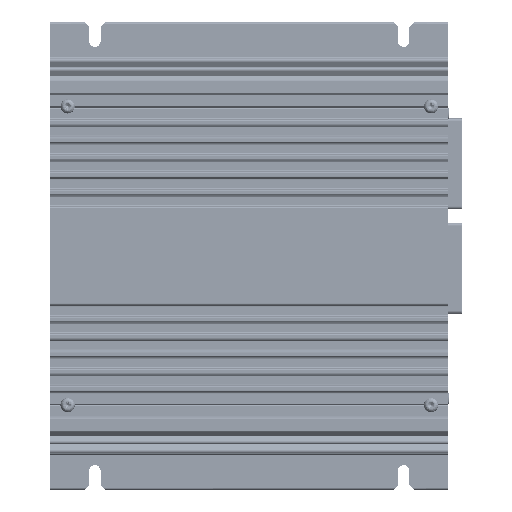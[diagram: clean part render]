
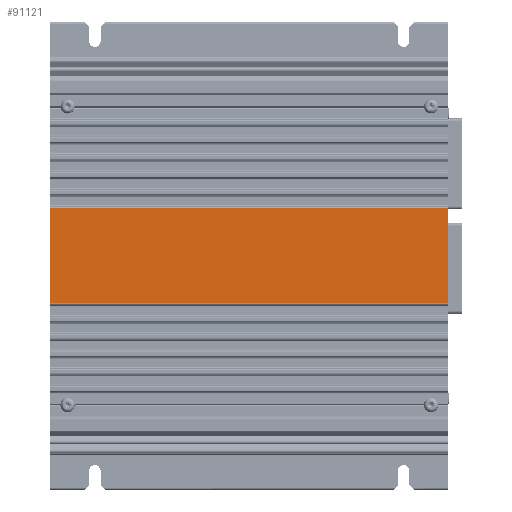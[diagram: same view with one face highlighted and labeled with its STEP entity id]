
A CAD part, top view. The second image highlights one B-rep face of the part: STEP entity #91121.
In plain terms, the highlighted planar face has unit normal (0, 0, 1).
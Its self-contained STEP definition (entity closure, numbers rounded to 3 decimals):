
#62483=FACE_OUTER_BOUND('',#281086,.T.);
#91121=ADVANCED_FACE('',(#62483),#113110,.F.);
#113110=PLANE('',#619188);
#178683=LINE('',#977205,#244637);
#178872=LINE('',#977763,#244826);
#178873=LINE('',#977765,#244827);
#178874=LINE('',#977767,#244828);
#244637=VECTOR('',#763787,1.);
#244826=VECTOR('',#764332,1.);
#244827=VECTOR('',#764335,1.);
#244828=VECTOR('',#764336,1.);
#281086=EDGE_LOOP('',(#436663,#436664,#436665,#436666));
#436663=ORIENTED_EDGE('',*,*,#568638,.F.);
#436664=ORIENTED_EDGE('',*,*,#568639,.F.);
#436665=ORIENTED_EDGE('',*,*,#568640,.T.);
#436666=ORIENTED_EDGE('',*,*,#568358,.T.);
#489540=VERTEX_POINT('',#977204);
#489541=VERTEX_POINT('',#977206);
#489731=VERTEX_POINT('',#977762);
#489732=VERTEX_POINT('',#977766);
#568358=EDGE_CURVE('',#489541,#489540,#178683,.T.);
#568638=EDGE_CURVE('',#489731,#489540,#178872,.T.);
#568639=EDGE_CURVE('',#489732,#489731,#178873,.T.);
#568640=EDGE_CURVE('',#489732,#489541,#178874,.T.);
#619188=AXIS2_PLACEMENT_3D('',#977768,#764337,#764338);
#763787=DIRECTION('',(0.,-1.,0.));
#764332=DIRECTION('',(-1.,0.,0.));
#764335=DIRECTION('',(0.,-1.,0.));
#764336=DIRECTION('',(-1.,0.,0.));
#764337=DIRECTION('',(0.,0.,-1.));
#764338=DIRECTION('',(-1.,0.,0.));
#977204=CARTESIAN_POINT('',(137.69,360.532,140.25));
#977205=CARTESIAN_POINT('',(137.69,398.751,140.25));
#977206=CARTESIAN_POINT('',(137.69,398.751,140.25));
#977762=CARTESIAN_POINT('',(297.69,360.532,140.25));
#977763=CARTESIAN_POINT('',(367.69,360.532,140.25));
#977765=CARTESIAN_POINT('',(297.69,398.751,140.25));
#977766=CARTESIAN_POINT('',(297.69,398.751,140.25));
#977767=CARTESIAN_POINT('',(367.69,398.751,140.25));
#977768=CARTESIAN_POINT('',(367.69,398.751,140.25));
